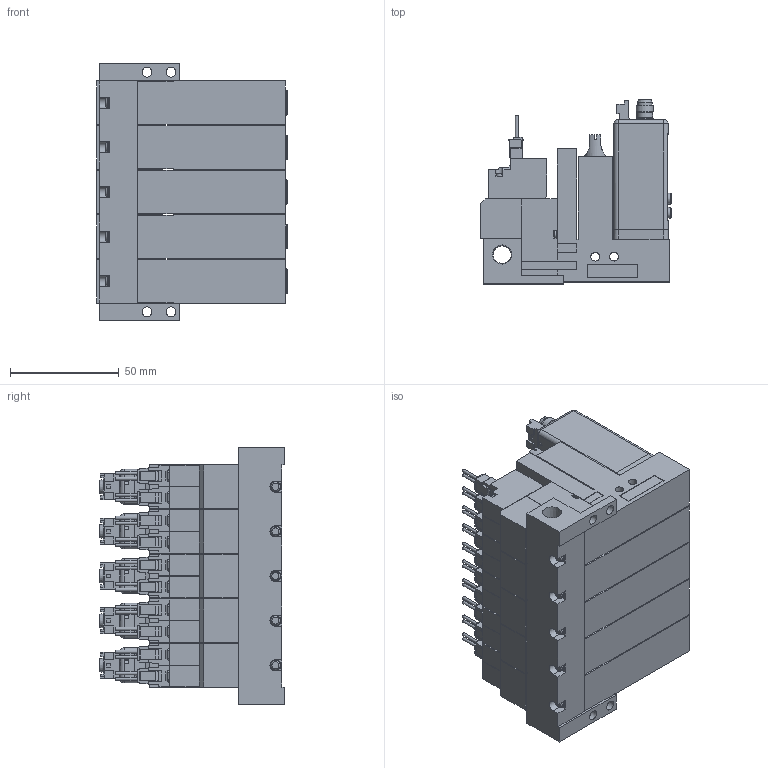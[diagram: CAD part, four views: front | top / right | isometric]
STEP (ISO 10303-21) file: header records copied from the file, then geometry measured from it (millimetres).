
FILE_DESCRIPTION(('STEP AP203'),'1');
FILE_NAME('22_22PL5BLR505.stp','2025-06-12T03:30:13',(' '),(' '),'Spatial InterOp 3D',' ',' ');
FILE_SCHEMA(('CONFIG_CONTROL_DESIGN'));
Length unit declared in the file: millimetre
Products named in the file (9): BMC22M※※※※22_22PL5BLR505; Solenoid valve B; Unit L; Base MR50R; MVS-202
Assembly tree (16 placements, depth 2):
  BMC22M※※※※22_22PL5BLR505
    Solenoid valve B  x5
    Unit L  x5
    Base MR50R
    MVS-202
    MVS-202
    MVS-202
    MVS-202
    MVS-202
Bounding box: 87.5 x 84.6 x 118 mm (x, y, z)
Volume: 482161.6 mm3; surface area: 145849.6 mm2
Topology: 16 solids, 36 shells, 3741 faces, 9739 edges, 6365 vertices
Faces by surface type: plane 3144, cylinder 465, cone 82, torus 30, sphere 20
Full cylindrical faces by diameter (mm): 1 x20, 1.4 x20, 1.5 x5, 2.5 x5, 3 x20, 3.5 x20, 3.6 x5, 4 x10, 4.134 x5, 4.5 x24, 4.8 x15, 5 x10, 5.2 x5, 5.8 x10, 6 x10, 6.5 x15, 6.6 x5, 7 x5, 7.2 x5, 7.9 x5, 8 x10, 8.279 x1
Entity records: 74635 total; most frequent: CARTESIAN_POINT 13431, ORIENTED_EDGE 12210, DIRECTION 12049, EDGE_CURVE 6105, LINE 5147, VECTOR 5147, VERTEX_POINT 4133, AXIS2_PLACEMENT_3D 3451
